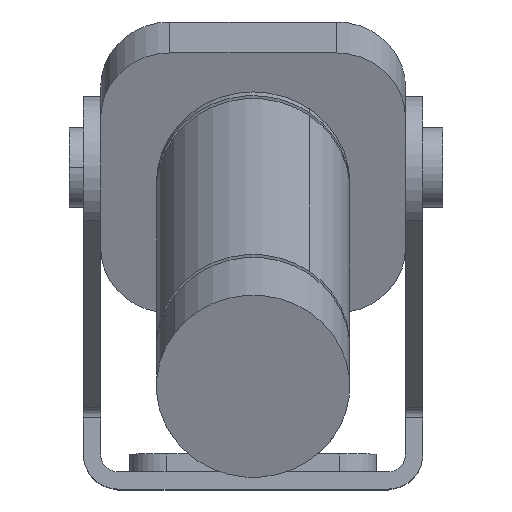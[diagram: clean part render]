
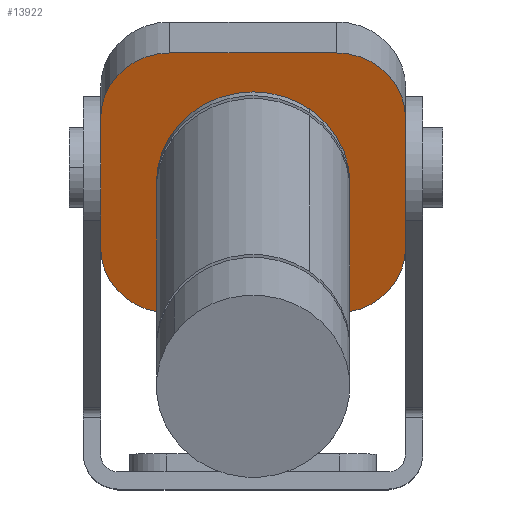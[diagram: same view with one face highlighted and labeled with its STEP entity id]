
A CAD part, top view. The second image highlights one B-rep face of the part: STEP entity #13922.
In plain terms, the highlighted planar face has unit normal (0, -0.338, 0.941) as drawn and (0, 0, 1) by its records, which use the part's own axes.
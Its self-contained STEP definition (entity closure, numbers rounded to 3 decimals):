
#63 = EDGE_CURVE ( 'NONE', #14335, #19119, #3320, .T. ) ;
#118 = CARTESIAN_POINT ( 'NONE',  ( 14., 48., 16. ) ) ;
#138 = AXIS2_PLACEMENT_3D ( 'NONE', #10939, #14035, #4865 ) ;
#455 = CARTESIAN_POINT ( 'NONE',  ( -0.5, 48., 16. ) ) ;
#602 = ORIENTED_EDGE ( 'NONE', *, *, #7630, .T. ) ;
#916 = VERTEX_POINT ( 'NONE', #15777 ) ;
#1097 = CARTESIAN_POINT ( 'NONE',  ( 28.5, 12., 16. ) ) ;
#1101 = AXIS2_PLACEMENT_3D ( 'NONE', #17418, #9976, #10727 ) ;
#1255 = CIRCLE ( 'NONE', #14341, 12. ) ;
#1415 = CARTESIAN_POINT ( 'NONE',  ( -0.5, 12., 16. ) ) ;
#1568 = ORIENTED_EDGE ( 'NONE', *, *, #12308, .T. ) ;
#1870 = LINE ( 'NONE', #118, #12626 ) ;
#2016 = ORIENTED_EDGE ( 'NONE', *, *, #3070, .T. ) ;
#2027 = EDGE_LOOP ( 'NONE', ( #602, #5374, #6093, #8881, #2016, #1568, #7611, #12944 ) ) ;
#2061 = CARTESIAN_POINT ( 'NONE',  ( -12.5, 12., 16. ) ) ;
#2131 = VECTOR ( 'NONE', #12189, 1000. ) ;
#2258 = VERTEX_POINT ( 'NONE', #2805 ) ;
#2805 = CARTESIAN_POINT ( 'NONE',  ( -0.5, 0., 16. ) ) ;
#2929 = DIRECTION ( 'NONE',  ( -1., 0., 0. ) ) ;
#2994 = ORIENTED_EDGE ( 'NONE', *, *, #63, .F. ) ;
#3070 = EDGE_CURVE ( 'NONE', #12691, #7164, #19693, .T. ) ;
#3320 = CIRCLE ( 'NONE', #1101, 16.82 ) ;
#3392 = CIRCLE ( 'NONE', #15901, 16.82 ) ;
#3407 = FACE_OUTER_BOUND ( 'NONE', #2027, .T. ) ;
#3596 = AXIS2_PLACEMENT_3D ( 'NONE', #1415, #12076, #2929 ) ;
#4865 = DIRECTION ( 'NONE',  ( -1., 0., 0. ) ) ;
#4949 = ORIENTED_EDGE ( 'NONE', *, *, #7236, .F. ) ;
#5351 = DIRECTION ( 'NONE',  ( 0., 0., 1. ) ) ;
#5374 = ORIENTED_EDGE ( 'NONE', *, *, #8785, .T. ) ;
#5942 = CARTESIAN_POINT ( 'NONE',  ( 14., 40.82, 16. ) ) ;
#6093 = ORIENTED_EDGE ( 'NONE', *, *, #15305, .T. ) ;
#6305 = DIRECTION ( 'NONE',  ( 0., -1., 0. ) ) ;
#6491 = CARTESIAN_POINT ( 'NONE',  ( -0.5, 36., 16. ) ) ;
#6850 = VERTEX_POINT ( 'NONE', #12903 ) ;
#6895 = AXIS2_PLACEMENT_3D ( 'NONE', #6491, #12674, #12379 ) ;
#7164 = VERTEX_POINT ( 'NONE', #11719 ) ;
#7236 = EDGE_CURVE ( 'NONE', #19119, #14335, #3392, .T. ) ;
#7434 = CIRCLE ( 'NONE', #15511, 12. ) ;
#7611 = ORIENTED_EDGE ( 'NONE', *, *, #19139, .T. ) ;
#7630 = EDGE_CURVE ( 'NONE', #6850, #9839, #7434, .T. ) ;
#7650 = CARTESIAN_POINT ( 'NONE',  ( 14., 0., 16. ) ) ;
#7784 = DIRECTION ( 'NONE',  ( 0., 0., 1. ) ) ;
#8646 = EDGE_LOOP ( 'NONE', ( #2994, #4949 ) ) ;
#8671 = CARTESIAN_POINT ( 'NONE',  ( 40.5, 36., 16. ) ) ;
#8737 = VERTEX_POINT ( 'NONE', #8671 ) ;
#8785 = EDGE_CURVE ( 'NONE', #9839, #8737, #14119, .T. ) ;
#8881 = ORIENTED_EDGE ( 'NONE', *, *, #10716, .T. ) ;
#9259 = DIRECTION ( 'NONE',  ( -1., 0., 0. ) ) ;
#9767 = LINE ( 'NONE', #7650, #2131 ) ;
#9832 = LINE ( 'NONE', #16298, #17507 ) ;
#9839 = VERTEX_POINT ( 'NONE', #17829 ) ;
#9976 = DIRECTION ( 'NONE',  ( 0., 0., 1. ) ) ;
#10042 = VECTOR ( 'NONE', #19501, 1000. ) ;
#10063 = EDGE_CURVE ( 'NONE', #2258, #6850, #9767, .T. ) ;
#10093 = DIRECTION ( 'NONE',  ( -1., 0., 0. ) ) ;
#10716 = EDGE_CURVE ( 'NONE', #916, #12691, #1870, .T. ) ;
#10727 = DIRECTION ( 'NONE',  ( 0., -1., 0. ) ) ;
#10939 = CARTESIAN_POINT ( 'NONE',  ( 40.5, 0., 16. ) ) ;
#11542 = FACE_BOUND ( 'NONE', #8646, .T. ) ;
#11719 = CARTESIAN_POINT ( 'NONE',  ( -12.5, 36., 16. ) ) ;
#11868 = CARTESIAN_POINT ( 'NONE',  ( 14., 7.18, 16. ) ) ;
#11871 = CARTESIAN_POINT ( 'NONE',  ( 40.5, 24., 16. ) ) ;
#12076 = DIRECTION ( 'NONE',  ( 0., 0., 1. ) ) ;
#12189 = DIRECTION ( 'NONE',  ( 1., 0., 0. ) ) ;
#12308 = EDGE_CURVE ( 'NONE', #7164, #15790, #9832, .T. ) ;
#12379 = DIRECTION ( 'NONE',  ( -1., 0., 0. ) ) ;
#12626 = VECTOR ( 'NONE', #9259, 1000. ) ;
#12674 = DIRECTION ( 'NONE',  ( 0., 0., 1. ) ) ;
#12691 = VERTEX_POINT ( 'NONE', #455 ) ;
#12903 = CARTESIAN_POINT ( 'NONE',  ( 28.5, 0., 16. ) ) ;
#12944 = ORIENTED_EDGE ( 'NONE', *, *, #10063, .T. ) ;
#13922 = ADVANCED_FACE ( 'NONE', ( #11542, #3407 ), #18595, .F. ) ;
#14035 = DIRECTION ( 'NONE',  ( 0., 0., -1. ) ) ;
#14119 = LINE ( 'NONE', #11871, #10042 ) ;
#14335 = VERTEX_POINT ( 'NONE', #11868 ) ;
#14341 = AXIS2_PLACEMENT_3D ( 'NONE', #14503, #5351, #16040 ) ;
#14503 = CARTESIAN_POINT ( 'NONE',  ( 28.5, 36., 16. ) ) ;
#15305 = EDGE_CURVE ( 'NONE', #8737, #916, #1255, .T. ) ;
#15511 = AXIS2_PLACEMENT_3D ( 'NONE', #1097, #18318, #10093 ) ;
#15777 = CARTESIAN_POINT ( 'NONE',  ( 28.5, 48., 16. ) ) ;
#15790 = VERTEX_POINT ( 'NONE', #2061 ) ;
#15901 = AXIS2_PLACEMENT_3D ( 'NONE', #16277, #7784, #6305 ) ;
#16040 = DIRECTION ( 'NONE',  ( -1., 0., 0. ) ) ;
#16277 = CARTESIAN_POINT ( 'NONE',  ( 14., 24., 16. ) ) ;
#16298 = CARTESIAN_POINT ( 'NONE',  ( -12.5, 24., 16. ) ) ;
#17418 = CARTESIAN_POINT ( 'NONE',  ( 14., 24., 16. ) ) ;
#17507 = VECTOR ( 'NONE', #17838, 1000. ) ;
#17829 = CARTESIAN_POINT ( 'NONE',  ( 40.5, 12., 16. ) ) ;
#17838 = DIRECTION ( 'NONE',  ( 0., -1., 0. ) ) ;
#18318 = DIRECTION ( 'NONE',  ( 0., 0., 1. ) ) ;
#18499 = CIRCLE ( 'NONE', #3596, 12. ) ;
#18595 = PLANE ( 'NONE',  #138 ) ;
#19119 = VERTEX_POINT ( 'NONE', #5942 ) ;
#19139 = EDGE_CURVE ( 'NONE', #15790, #2258, #18499, .T. ) ;
#19501 = DIRECTION ( 'NONE',  ( 0., 1., 0. ) ) ;
#19693 = CIRCLE ( 'NONE', #6895, 12. ) ;
